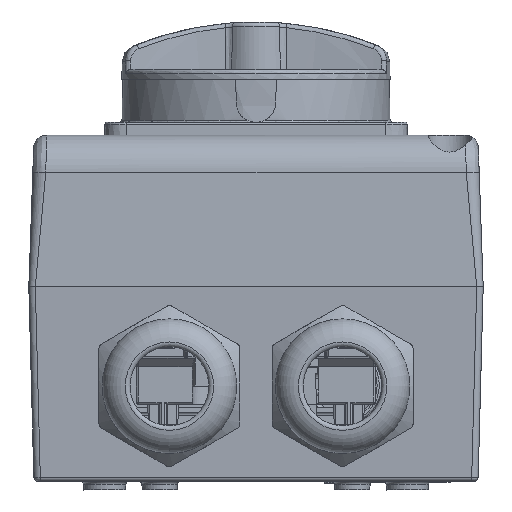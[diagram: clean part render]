
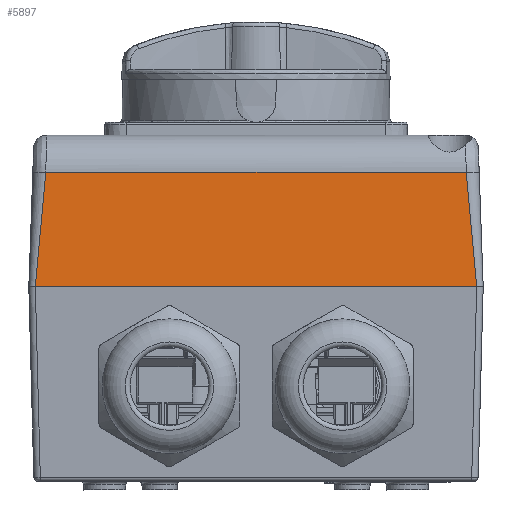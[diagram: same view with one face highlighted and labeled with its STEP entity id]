
A CAD part, front view. The second image highlights one B-rep face of the part: STEP entity #5897.
In plain terms, the highlighted planar face has unit normal (0, -0.999, 0.044).
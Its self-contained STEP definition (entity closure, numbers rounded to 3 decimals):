
#1158=B_SPLINE_CURVE_WITH_KNOTS('',3,(#98023,#98024,#98025,#98026,#98027,
#98028,#98029,#98030),.UNSPECIFIED.,.F.,.F.,(4,2,2,4),(0.,0.6,0.66,
1.),.UNSPECIFIED.);
#1159=B_SPLINE_CURVE_WITH_KNOTS('',3,(#98031,#98032,#98033,#98034,#98035,
#98036,#98037,#98038),.UNSPECIFIED.,.F.,.F.,(4,2,2,4),(0.,0.34,
0.4,1.),.UNSPECIFIED.);
#5897=ADVANCED_FACE('',(#12055),#9920,.T.);
#9920=PLANE('',#72001);
#12055=FACE_OUTER_BOUND('',#15859,.T.);
#15859=EDGE_LOOP('',(#22968,#22969,#22970,#22971));
#22968=ORIENTED_EDGE('',*,*,#49895,.T.);
#22969=ORIENTED_EDGE('',*,*,#49784,.T.);
#22970=ORIENTED_EDGE('',*,*,#49896,.T.);
#22971=ORIENTED_EDGE('',*,*,#49747,.T.);
#42992=VERTEX_POINT('',#96689);
#42993=VERTEX_POINT('',#96691);
#43025=VERTEX_POINT('',#96903);
#43026=VERTEX_POINT('',#96905);
#49747=EDGE_CURVE('',#42993,#42992,#59925,.T.);
#49784=EDGE_CURVE('',#43026,#43025,#59945,.T.);
#49895=EDGE_CURVE('',#42992,#43026,#1158,.T.);
#49896=EDGE_CURVE('',#43025,#42993,#1159,.T.);
#59925=LINE('',#96690,#65763);
#59945=LINE('',#96904,#65783);
#65763=VECTOR('',#78328,1.);
#65783=VECTOR('',#78370,1.);
#72001=AXIS2_PLACEMENT_3D('',#98039,#78510,#78511);
#78328=DIRECTION('',(-1.,0.,0.));
#78370=DIRECTION('',(1.,0.,0.));
#78510=DIRECTION('',(0.,-0.999,0.044));
#78511=DIRECTION('',(0.,-0.044,-0.999));
#96689=CARTESIAN_POINT('',(-48.581,-73.848,-137.607));
#96690=CARTESIAN_POINT('',(0.,-73.848,-137.607));
#96691=CARTESIAN_POINT('',(48.581,-73.848,-137.607));
#96903=CARTESIAN_POINT('',(50.997,-75.,-164.));
#96904=CARTESIAN_POINT('',(0.,-75.,-164.));
#96905=CARTESIAN_POINT('',(-50.997,-75.,-164.));
#98023=CARTESIAN_POINT('',(-48.581,-73.848,-137.607));
#98024=CARTESIAN_POINT('',(-48.89,-74.233,-146.44));
#98025=CARTESIAN_POINT('',(-49.946,-74.618,-155.246));
#98026=CARTESIAN_POINT('',(-51.108,-75.041,-164.929));
#98027=CARTESIAN_POINT('',(-51.214,-75.079,-165.806));
#98028=CARTESIAN_POINT('',(-51.918,-75.335,-171.677));
#98029=CARTESIAN_POINT('',(-52.518,-75.553,-176.671));
#98030=CARTESIAN_POINT('',(-53.117,-75.771,-181.665));
#98031=CARTESIAN_POINT('',(53.117,-75.771,-181.665));
#98032=CARTESIAN_POINT('',(52.518,-75.553,-176.671));
#98033=CARTESIAN_POINT('',(51.918,-75.335,-171.677));
#98034=CARTESIAN_POINT('',(51.214,-75.079,-165.806));
#98035=CARTESIAN_POINT('',(51.108,-75.041,-164.929));
#98036=CARTESIAN_POINT('',(49.946,-74.618,-155.246));
#98037=CARTESIAN_POINT('',(48.89,-74.233,-146.44));
#98038=CARTESIAN_POINT('',(48.581,-73.848,-137.607));
#98039=CARTESIAN_POINT('',(0.,-75.,-164.));
